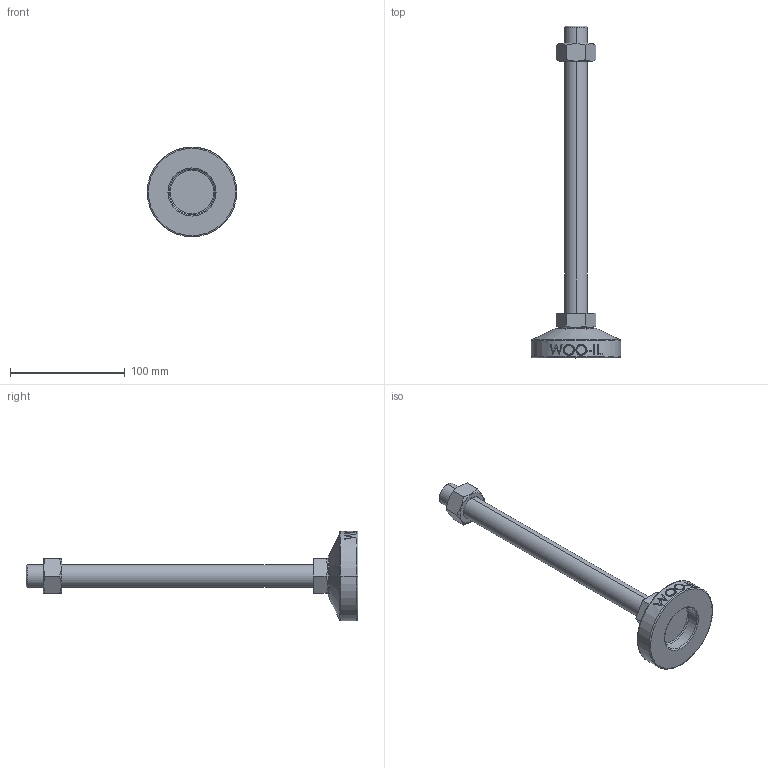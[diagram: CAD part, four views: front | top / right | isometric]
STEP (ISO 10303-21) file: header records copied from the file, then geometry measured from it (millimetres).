
FILE_DESCRIPTION (( 'STEP AP214' ), '1' );
FILE_NAME ('MFZ78-M20-250.step', '2021-01-15T07:09:06', ( '' ), ( '' ), 'SwSTEP 2.0', 'SolidWorks 2019', '' );
FILE_SCHEMA (( 'AUTOMOTIVE_DESIGN' ));
Length unit declared in the file: millimetre
Products named in the file (2): MFZ78-M20-250
Bounding box: 78 x 289 x 78 mm (x, y, z)
Volume: 182971.1 mm3; surface area: 37043.3 mm2
Topology: 3 solids, 3 shells, 106 faces, 243 edges, 154 vertices
Faces by surface type: plane 48, cylinder 18, bspline 16, cone 14, torus 10
Entity records: 4596 total; most frequent: CARTESIAN_POINT 2253, ORIENTED_EDGE 486, DIRECTION 439, EDGE_CURVE 243, AXIS2_PLACEMENT_3D 170, VERTEX_POINT 154, EDGE_LOOP 119, FACE_OUTER_BOUND 106
